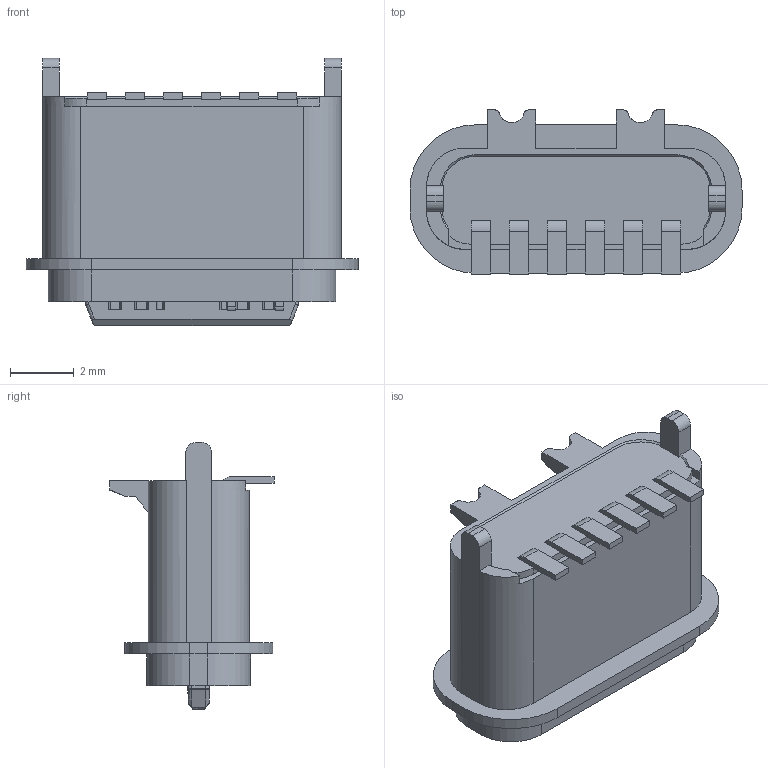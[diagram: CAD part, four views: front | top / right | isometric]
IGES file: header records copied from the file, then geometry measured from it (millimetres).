
Start section:  PTC IGES file: 008.igs
Global section: file name: 008.igs; native system: Creo Parametric by PTC Inc.; preprocessor: 2019080; author: Administrator; organization: Unknown; date: 20230420.165125; units: millimetre
Bounding box: 10.44 x 5.16 x 8.4 mm (x, y, z)
Surface area: 411.7 mm2 (no closed solid volume)
Topology: 0 solids, 0 shells, 446 faces, 2504 edges, 2496 vertices
Faces by surface type: bspline 351, revolution 95
